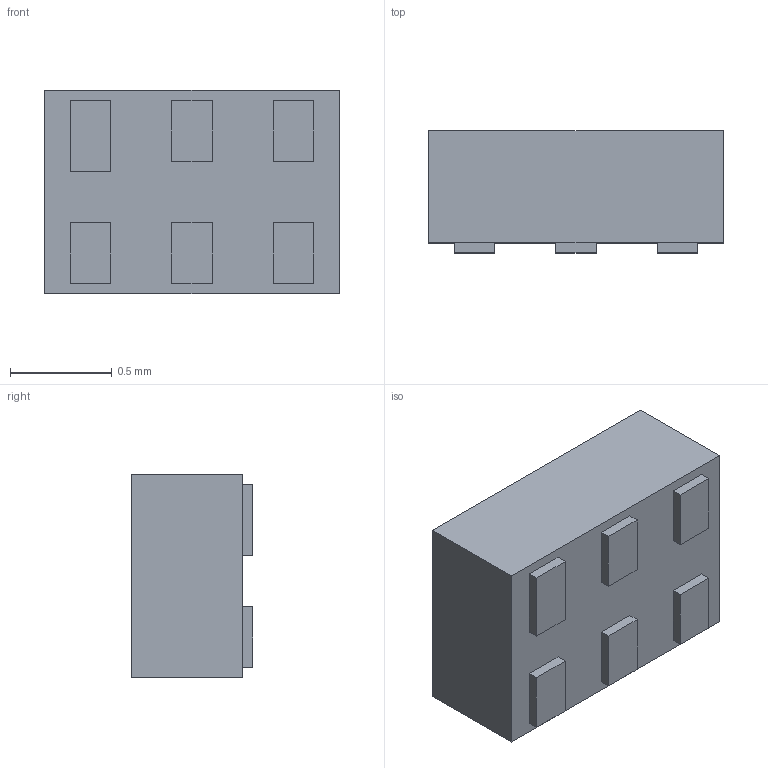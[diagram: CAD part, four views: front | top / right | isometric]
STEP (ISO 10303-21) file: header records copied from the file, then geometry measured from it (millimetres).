
FILE_DESCRIPTION (( 'STEP AP214' ), '1' );
FILE_NAME ( 'PSON6P50_145X100X60L30X20.STEP', '2021-10-06T06:49:12', ( '' ), ( '' ), '', '©2017 PCB Libraries, Inc.', '' );
FILE_SCHEMA (( 'AUTOMOTIVE_DESIGN' ));
Length unit declared in the file: millimetre
Products named in the file (1): PSON6P50_145X100X60L30X20
Bounding box: 1.45 x 0.6 x 1 mm (x, y, z)
Volume: 0.8 mm3; surface area: 6.7 mm2
Topology: 7 solids, 7 shells, 45 faces, 90 edges, 60 vertices
Faces by surface type: plane 43, torus 2
Entity records: 1379 total; most frequent: CARTESIAN_POINT 196, DIRECTION 188, ORIENTED_EDGE 180, EDGE_CURVE 90, VECTOR 84, LINE 84, VERTEX_POINT 60, STYLED_ITEM 53
